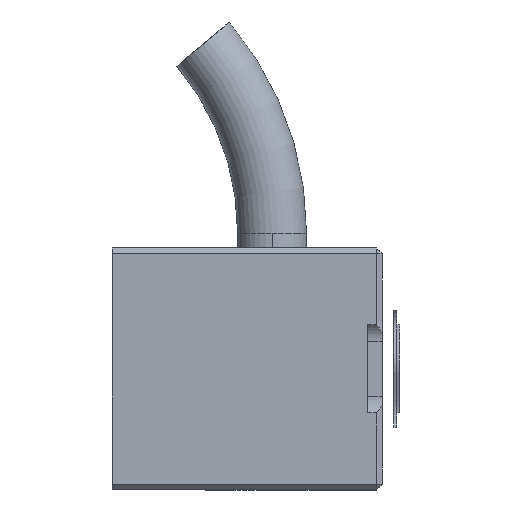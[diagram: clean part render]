
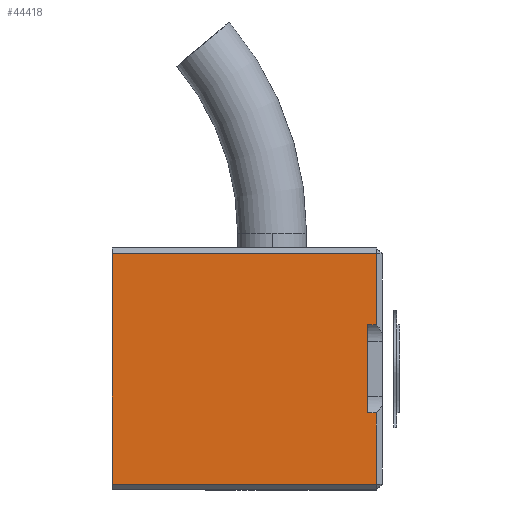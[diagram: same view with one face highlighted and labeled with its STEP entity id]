
A CAD part, left-side view. The second image highlights one B-rep face of the part: STEP entity #44418.
In plain terms, the highlighted planar face has unit normal (-1, 0, 0).
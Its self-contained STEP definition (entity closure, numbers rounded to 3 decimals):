
#1973 = DIRECTION ( 'NONE',  ( 0., -1., 0. ) ) ;
#2648 = VERTEX_POINT ( 'NONE', #41612 ) ;
#2653 = CARTESIAN_POINT ( 'NONE',  ( -18., 18.4, 7.85 ) ) ;
#3985 = CARTESIAN_POINT ( 'NONE',  ( -18., 0.4, 3. ) ) ;
#4354 = ORIENTED_EDGE ( 'NONE', *, *, #28584, .T. ) ;
#4738 = ORIENTED_EDGE ( 'NONE', *, *, #25006, .T. ) ;
#5589 = ORIENTED_EDGE ( 'NONE', *, *, #30768, .T. ) ;
#5889 = VECTOR ( 'NONE', #12236, 1000. ) ;
#7499 = ORIENTED_EDGE ( 'NONE', *, *, #29260, .T. ) ;
#8086 = CARTESIAN_POINT ( 'NONE',  ( -18., 1., -3. ) ) ;
#8301 = ORIENTED_EDGE ( 'NONE', *, *, #22623, .F. ) ;
#9856 = CARTESIAN_POINT ( 'NONE',  ( -18., 1., 3. ) ) ;
#10142 = VECTOR ( 'NONE', #45376, 1000. ) ;
#10543 = CARTESIAN_POINT ( 'NONE',  ( -18., 0.4, -3. ) ) ;
#10996 = VECTOR ( 'NONE', #1973, 1000. ) ;
#11561 = LINE ( 'NONE', #43608, #5889 ) ;
#12236 = DIRECTION ( 'NONE',  ( 0., -1., 0. ) ) ;
#13601 = CARTESIAN_POINT ( 'NONE',  ( -18., 1., 8.25 ) ) ;
#13763 = CARTESIAN_POINT ( 'NONE',  ( -18., 18.4, 8.25 ) ) ;
#14236 = ORIENTED_EDGE ( 'NONE', *, *, #40556, .T. ) ;
#14321 = VERTEX_POINT ( 'NONE', #35798 ) ;
#14381 = CARTESIAN_POINT ( 'NONE',  ( -18., 1., -3. ) ) ;
#14955 = CARTESIAN_POINT ( 'NONE',  ( -18., 18.4, -7.85 ) ) ;
#16428 = VERTEX_POINT ( 'NONE', #28376 ) ;
#17923 = DIRECTION ( 'NONE',  ( 0., 0., 1. ) ) ;
#18176 = VECTOR ( 'NONE', #42095, 1000. ) ;
#21038 = CARTESIAN_POINT ( 'NONE',  ( -18., 18.4, 8.25 ) ) ;
#21742 = AXIS2_PLACEMENT_3D ( 'NONE', #21038, #37897, #27972 ) ;
#21829 = ORIENTED_EDGE ( 'NONE', *, *, #41542, .T. ) ;
#21900 = VECTOR ( 'NONE', #17923, 1000. ) ;
#22623 = EDGE_CURVE ( 'NONE', #45132, #41854, #35217, .T. ) ;
#23178 = LINE ( 'NONE', #14955, #10996 ) ;
#25006 = EDGE_CURVE ( 'NONE', #2648, #16428, #39377, .T. ) ;
#26801 = ORIENTED_EDGE ( 'NONE', *, *, #30059, .F. ) ;
#27346 = LINE ( 'NONE', #2653, #40956 ) ;
#27581 = LINE ( 'NONE', #41649, #18176 ) ;
#27972 = DIRECTION ( 'NONE',  ( 0., 0., -1. ) ) ;
#28376 = CARTESIAN_POINT ( 'NONE',  ( -18., 0.4, -3. ) ) ;
#28584 = EDGE_CURVE ( 'NONE', #45132, #2648, #23178, .T. ) ;
#29188 = VERTEX_POINT ( 'NONE', #8086 ) ;
#29260 = EDGE_CURVE ( 'NONE', #30599, #38386, #11561, .T. ) ;
#30059 = EDGE_CURVE ( 'NONE', #30599, #29188, #33930, .T. ) ;
#30599 = VERTEX_POINT ( 'NONE', #9856 ) ;
#30768 = EDGE_CURVE ( 'NONE', #16428, #29188, #39291, .T. ) ;
#32254 = CARTESIAN_POINT ( 'NONE',  ( -18., 18.4, -7.85 ) ) ;
#32456 = VECTOR ( 'NONE', #38384, 1000. ) ;
#33887 = VECTOR ( 'NONE', #41752, 1000. ) ;
#33930 = LINE ( 'NONE', #13601, #33887 ) ;
#34672 = CARTESIAN_POINT ( 'NONE',  ( -18., 18.4, 7.85 ) ) ;
#34894 = FACE_OUTER_BOUND ( 'NONE', #45563, .T. ) ;
#35217 = LINE ( 'NONE', #13763, #10142 ) ;
#35565 = DIRECTION ( 'NONE',  ( 0., 1., 0. ) ) ;
#35798 = CARTESIAN_POINT ( 'NONE',  ( -18., 0.4, 7.85 ) ) ;
#37897 = DIRECTION ( 'NONE',  ( 1., 0., 0. ) ) ;
#38384 = DIRECTION ( 'NONE',  ( 0., 1., 0. ) ) ;
#38386 = VERTEX_POINT ( 'NONE', #3985 ) ;
#39291 = LINE ( 'NONE', #14381, #32456 ) ;
#39377 = LINE ( 'NONE', #10543, #21900 ) ;
#40556 = EDGE_CURVE ( 'NONE', #14321, #41854, #27346, .T. ) ;
#40956 = VECTOR ( 'NONE', #35565, 1000. ) ;
#41542 = EDGE_CURVE ( 'NONE', #38386, #14321, #27581, .T. ) ;
#41612 = CARTESIAN_POINT ( 'NONE',  ( -18., 0.4, -7.85 ) ) ;
#41649 = CARTESIAN_POINT ( 'NONE',  ( -18., 0.4, 8.25 ) ) ;
#41752 = DIRECTION ( 'NONE',  ( 0., 0., -1. ) ) ;
#41854 = VERTEX_POINT ( 'NONE', #34672 ) ;
#42095 = DIRECTION ( 'NONE',  ( 0., 0., 1. ) ) ;
#43608 = CARTESIAN_POINT ( 'NONE',  ( -18., 1., 3. ) ) ;
#44418 = ADVANCED_FACE ( 'NONE', ( #34894 ), #45513, .F. ) ;
#45132 = VERTEX_POINT ( 'NONE', #32254 ) ;
#45376 = DIRECTION ( 'NONE',  ( 0., 0., 1. ) ) ;
#45513 = PLANE ( 'NONE',  #21742 ) ;
#45563 = EDGE_LOOP ( 'NONE', ( #7499, #21829, #14236, #8301, #4354, #4738, #5589, #26801 ) ) ;
